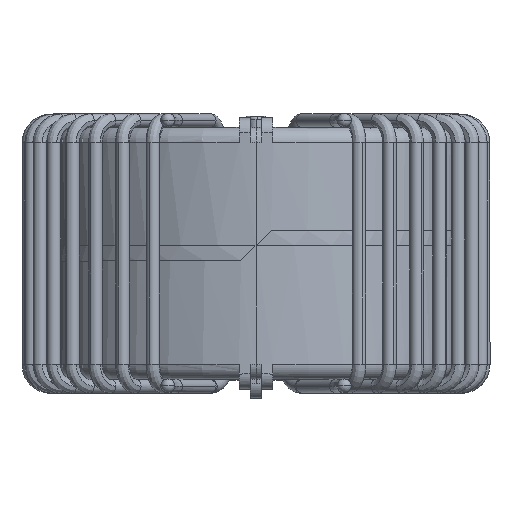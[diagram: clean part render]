
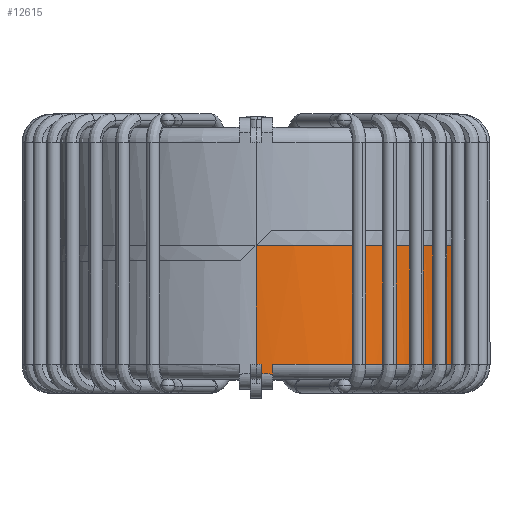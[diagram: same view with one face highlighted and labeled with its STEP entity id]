
A CAD part, top view. The second image highlights one B-rep face of the part: STEP entity #12615.
In plain terms, the highlighted cylindrical face has radius 14.606 mm (diameter 29.212 mm), a partial arc.
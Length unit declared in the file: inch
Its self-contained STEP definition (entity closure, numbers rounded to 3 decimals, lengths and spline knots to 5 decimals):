
#22 = CARTESIAN_POINT ( 'NONE',  ( 0.04429, -0.28935, 0.57333 ) ) ;
#196 = EDGE_CURVE ( 'NONE', #22226, #21500, #16076, .T. ) ;
#278 = ORIENTED_EDGE ( 'NONE', *, *, #18224, .T. ) ;
#687 = ORIENTED_EDGE ( 'NONE', *, *, #17084, .T. ) ;
#1025 = LINE ( 'NONE', #10300, #19650 ) ;
#1632 = CIRCLE ( 'NONE', #7901, 0.57504 ) ;
#1747 = ORIENTED_EDGE ( 'NONE', *, *, #24452, .T. ) ;
#2917 = EDGE_CURVE ( 'NONE', #29602, #21572, #26758, .T. ) ;
#3088 = CARTESIAN_POINT ( 'NONE',  ( 0.01476, -0.28935, 0.57485 ) ) ;
#3317 = CIRCLE ( 'NONE', #22591, 0.57504 ) ;
#3391 = VERTEX_POINT ( 'NONE', #3088 ) ;
#3900 = CARTESIAN_POINT ( 'NONE',  ( 0., 0.32872, 0. ) ) ;
#4290 = CARTESIAN_POINT ( 'NONE',  ( 0.04429, 0.35433, 0.57333 ) ) ;
#4328 = ORIENTED_EDGE ( 'NONE', *, *, #12040, .T. ) ;
#4431 = VERTEX_POINT ( 'NONE', #10163 ) ;
#4878 = EDGE_CURVE ( 'NONE', #12192, #19868, #3317, .T. ) ;
#4971 = FACE_OUTER_BOUND ( 'NONE', #6419, .T. ) ;
#5416 = VECTOR ( 'NONE', #30095, 39.37008 ) ;
#5787 = CARTESIAN_POINT ( 'NONE',  ( 0., -0.28935, 0. ) ) ;
#6040 = EDGE_CURVE ( 'NONE', #31541, #16768, #1632, .T. ) ;
#6163 = DIRECTION ( 'NONE',  ( 0., 1., 0. ) ) ;
#6164 = ORIENTED_EDGE ( 'NONE', *, *, #31786, .F. ) ;
#6242 = AXIS2_PLACEMENT_3D ( 'NONE', #3900, #22060, #25319 ) ;
#6245 = DIRECTION ( 'NONE',  ( 0., 0., 1. ) ) ;
#6319 = EDGE_CURVE ( 'NONE', #29602, #6893, #1025, .T. ) ;
#6419 = EDGE_LOOP ( 'NONE', ( #21174, #6472, #1747, #4328, #18206, #29358, #6164, #9936, #687, #278, #11426, #23470, #29410, #18305 ) ) ;
#6472 = ORIENTED_EDGE ( 'NONE', *, *, #6319, .T. ) ;
#6666 = CARTESIAN_POINT ( 'NONE',  ( 0.04429, -0.28935, -0.57333 ) ) ;
#6743 = CARTESIAN_POINT ( 'NONE',  ( 0.04429, -0.31496, 0.57333 ) ) ;
#6893 = VERTEX_POINT ( 'NONE', #25256 ) ;
#7108 = CARTESIAN_POINT ( 'NONE',  ( 0., 0.32872, -0.57504 ) ) ;
#7851 = DIRECTION ( 'NONE',  ( 0., -1., 0. ) ) ;
#7901 = AXIS2_PLACEMENT_3D ( 'NONE', #30391, #18856, #15739 ) ;
#8426 = CARTESIAN_POINT ( 'NONE',  ( 0., -0.28935, -0.57504 ) ) ;
#8976 = LINE ( 'NONE', #26222, #22466 ) ;
#9340 = DIRECTION ( 'NONE',  ( 0., 1., 0. ) ) ;
#9936 = ORIENTED_EDGE ( 'NONE', *, *, #196, .T. ) ;
#10163 = CARTESIAN_POINT ( 'NONE',  ( 0.04429, -0.31496, -0.57333 ) ) ;
#10300 = CARTESIAN_POINT ( 'NONE',  ( 0., 0.32872, 0.57504 ) ) ;
#10604 = CYLINDRICAL_SURFACE ( 'NONE', #6242, 0.57504 ) ;
#10695 = LINE ( 'NONE', #25854, #15213 ) ;
#11015 = CARTESIAN_POINT ( 'NONE',  ( 0., -0.28935, 0. ) ) ;
#11313 = VERTEX_POINT ( 'NONE', #14071 ) ;
#11426 = ORIENTED_EDGE ( 'NONE', *, *, #19762, .F. ) ;
#11773 = CARTESIAN_POINT ( 'NONE',  ( 0.01476, 0.35433, 0.57485 ) ) ;
#12040 = EDGE_CURVE ( 'NONE', #11313, #3391, #15622, .T. ) ;
#12110 = EDGE_CURVE ( 'NONE', #23721, #19868, #10695, .T. ) ;
#12192 = VERTEX_POINT ( 'NONE', #19862 ) ;
#12578 = DIRECTION ( 'NONE',  ( 0., 1., 0. ) ) ;
#12615 = ADVANCED_FACE ( 'NONE', ( #4971 ), #10604, .T. ) ;
#13066 = LINE ( 'NONE', #4290, #14739 ) ;
#13160 = DIRECTION ( 'NONE',  ( 0., -1., 0. ) ) ;
#13621 = DIRECTION ( 'NONE',  ( 0., -1., 0. ) ) ;
#13686 = DIRECTION ( 'NONE',  ( 0., -1., 0. ) ) ;
#14071 = CARTESIAN_POINT ( 'NONE',  ( 0., -0.28935, 0.57504 ) ) ;
#14614 = AXIS2_PLACEMENT_3D ( 'NONE', #26995, #6163, #17016 ) ;
#14739 = VECTOR ( 'NONE', #7851, 39.37008 ) ;
#15112 = AXIS2_PLACEMENT_3D ( 'NONE', #28677, #30726, #6245 ) ;
#15145 = VECTOR ( 'NONE', #13686, 39.37008 ) ;
#15213 = VECTOR ( 'NONE', #24276, 39.37008 ) ;
#15227 = LINE ( 'NONE', #18353, #15145 ) ;
#15302 = CARTESIAN_POINT ( 'NONE',  ( 0., 0.02008, -0.57504 ) ) ;
#15356 = VECTOR ( 'NONE', #13621, 39.37008 ) ;
#15622 = CIRCLE ( 'NONE', #26886, 0.57504 ) ;
#15693 = CARTESIAN_POINT ( 'NONE',  ( 0., 0.01969, -0.57504 ) ) ;
#15739 = DIRECTION ( 'NONE',  ( 0., 0., -1. ) ) ;
#16057 = VECTOR ( 'NONE', #24328, 39.37008 ) ;
#16076 = CIRCLE ( 'NONE', #25318, 0.57504 ) ;
#16768 = VERTEX_POINT ( 'NONE', #6743 ) ;
#17016 = DIRECTION ( 'NONE',  ( 0., 0., 1. ) ) ;
#17084 = EDGE_CURVE ( 'NONE', #21500, #4431, #8976, .T. ) ;
#17311 = EDGE_CURVE ( 'NONE', #3391, #31541, #25886, .T. ) ;
#18206 = ORIENTED_EDGE ( 'NONE', *, *, #17311, .T. ) ;
#18224 = EDGE_CURVE ( 'NONE', #4431, #19684, #26226, .T. ) ;
#18305 = ORIENTED_EDGE ( 'NONE', *, *, #25024, .F. ) ;
#18353 = CARTESIAN_POINT ( 'NONE',  ( 0., 0.32872, 0.57504 ) ) ;
#18856 = DIRECTION ( 'NONE',  ( 0., 1., 0. ) ) ;
#19588 = CARTESIAN_POINT ( 'NONE',  ( 0., 0.02008, 0.57504 ) ) ;
#19650 = VECTOR ( 'NONE', #24692, 39.37008 ) ;
#19684 = VERTEX_POINT ( 'NONE', #19788 ) ;
#19762 = EDGE_CURVE ( 'NONE', #12192, #19684, #25647, .T. ) ;
#19788 = CARTESIAN_POINT ( 'NONE',  ( 0.01476, -0.31496, -0.57485 ) ) ;
#19862 = CARTESIAN_POINT ( 'NONE',  ( 0.01476, -0.28935, -0.57485 ) ) ;
#19868 = VERTEX_POINT ( 'NONE', #8426 ) ;
#20463 = DIRECTION ( 'NONE',  ( 0., 0., 1. ) ) ;
#21174 = ORIENTED_EDGE ( 'NONE', *, *, #2917, .F. ) ;
#21500 = VERTEX_POINT ( 'NONE', #6666 ) ;
#21572 = VERTEX_POINT ( 'NONE', #15302 ) ;
#22060 = DIRECTION ( 'NONE',  ( 0., -1., 0. ) ) ;
#22226 = VERTEX_POINT ( 'NONE', #22 ) ;
#22466 = VECTOR ( 'NONE', #13160, 39.37008 ) ;
#22543 = DIRECTION ( 'NONE',  ( 0., 1., 0. ) ) ;
#22591 = AXIS2_PLACEMENT_3D ( 'NONE', #5787, #9340, #31859 ) ;
#22741 = LINE ( 'NONE', #7108, #16057 ) ;
#23470 = ORIENTED_EDGE ( 'NONE', *, *, #4878, .T. ) ;
#23721 = VERTEX_POINT ( 'NONE', #15693 ) ;
#24276 = DIRECTION ( 'NONE',  ( 0., -1., 0. ) ) ;
#24328 = DIRECTION ( 'NONE',  ( 0., -1., 0. ) ) ;
#24452 = EDGE_CURVE ( 'NONE', #6893, #11313, #15227, .T. ) ;
#24692 = DIRECTION ( 'NONE',  ( 0., -1., 0. ) ) ;
#25024 = EDGE_CURVE ( 'NONE', #21572, #23721, #22741, .T. ) ;
#25256 = CARTESIAN_POINT ( 'NONE',  ( 0., 0.01969, 0.57504 ) ) ;
#25318 = AXIS2_PLACEMENT_3D ( 'NONE', #27321, #22543, #20463 ) ;
#25319 = DIRECTION ( 'NONE',  ( 0., 0., -1. ) ) ;
#25647 = LINE ( 'NONE', #27757, #15356 ) ;
#25854 = CARTESIAN_POINT ( 'NONE',  ( 0., 0.32872, -0.57504 ) ) ;
#25886 = LINE ( 'NONE', #11773, #5416 ) ;
#26222 = CARTESIAN_POINT ( 'NONE',  ( 0.04429, 0.35433, -0.57333 ) ) ;
#26226 = CIRCLE ( 'NONE', #14614, 0.57504 ) ;
#26758 = CIRCLE ( 'NONE', #15112, 0.57504 ) ;
#26886 = AXIS2_PLACEMENT_3D ( 'NONE', #11015, #12578, #30904 ) ;
#26995 = CARTESIAN_POINT ( 'NONE',  ( 0., -0.31496, 0. ) ) ;
#27321 = CARTESIAN_POINT ( 'NONE',  ( 0., -0.28935, 0. ) ) ;
#27757 = CARTESIAN_POINT ( 'NONE',  ( 0.01476, 0.35433, -0.57485 ) ) ;
#28677 = CARTESIAN_POINT ( 'NONE',  ( 0., 0.02008, 0. ) ) ;
#29358 = ORIENTED_EDGE ( 'NONE', *, *, #6040, .T. ) ;
#29410 = ORIENTED_EDGE ( 'NONE', *, *, #12110, .F. ) ;
#29602 = VERTEX_POINT ( 'NONE', #19588 ) ;
#30095 = DIRECTION ( 'NONE',  ( 0., -1., 0. ) ) ;
#30391 = CARTESIAN_POINT ( 'NONE',  ( 0., -0.31496, 0. ) ) ;
#30726 = DIRECTION ( 'NONE',  ( 0., 1., 0. ) ) ;
#30904 = DIRECTION ( 'NONE',  ( 0., 0., 1. ) ) ;
#31383 = CARTESIAN_POINT ( 'NONE',  ( 0.01476, -0.31496, 0.57485 ) ) ;
#31541 = VERTEX_POINT ( 'NONE', #31383 ) ;
#31786 = EDGE_CURVE ( 'NONE', #22226, #16768, #13066, .T. ) ;
#31859 = DIRECTION ( 'NONE',  ( 0., 0., 1. ) ) ;
